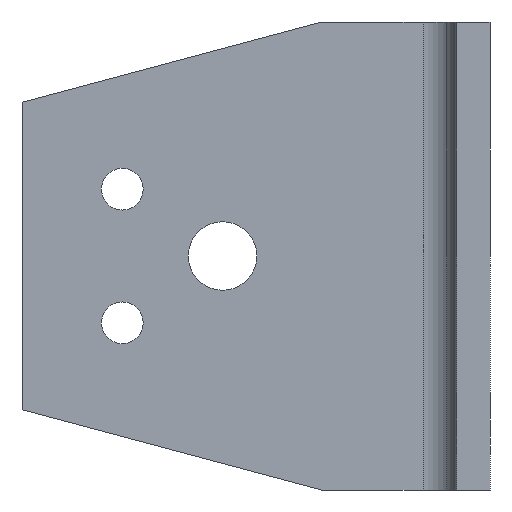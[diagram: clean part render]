
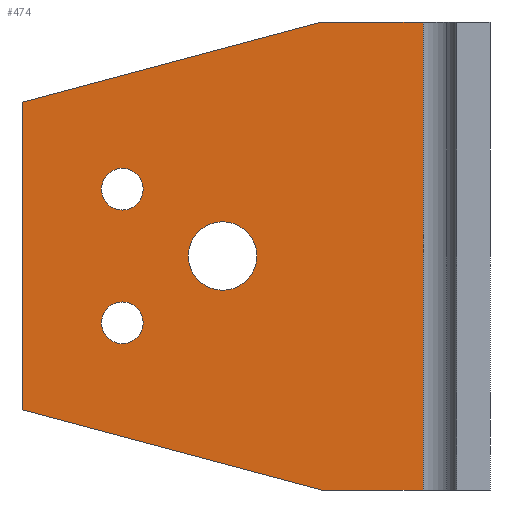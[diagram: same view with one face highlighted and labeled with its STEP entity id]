
A CAD part, left-side view. The second image highlights one B-rep face of the part: STEP entity #474.
In plain terms, the highlighted planar face has unit normal (-1, 0, 0).
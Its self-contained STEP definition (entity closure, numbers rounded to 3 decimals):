
#133=CARTESIAN_POINT('',(32.0,50.,80.25));
#134=VERTEX_POINT('',#133);
#143=CARTESIAN_POINT('',(32.0,50.,59.75));
#144=VERTEX_POINT('',#143);
#145=CARTESIAN_POINT('',(32.0,50.,70.0));
#146=DIRECTION('',(1.0,0.0,0.0));
#147=DIRECTION('',(0.0,0.0,1.0));
#148=AXIS2_PLACEMENT_3D('',#145,#146,#147);
#149=CIRCLE('',#148,10.25);
#150=EDGE_CURVE('',#144,#134,#149,.T.);
#175=CARTESIAN_POINT('',(32.0,80.0,96.25));
#176=VERTEX_POINT('',#175);
#185=CARTESIAN_POINT('',(32.0,80.0,83.75));
#186=VERTEX_POINT('',#185);
#187=CARTESIAN_POINT('',(32.0,80.0,90.0));
#188=DIRECTION('',(1.0,0.0,0.0));
#189=DIRECTION('',(0.0,0.0,1.0));
#190=AXIS2_PLACEMENT_3D('',#187,#188,#189);
#191=CIRCLE('',#190,6.25);
#192=EDGE_CURVE('',#186,#176,#191,.T.);
#217=CARTESIAN_POINT('',(32.0,80.,56.25));
#218=VERTEX_POINT('',#217);
#227=CARTESIAN_POINT('',(32.0,80.,43.75));
#228=VERTEX_POINT('',#227);
#229=CARTESIAN_POINT('',(32.0,80.,50.0));
#230=DIRECTION('',(1.0,0.0,0.0));
#231=DIRECTION('',(0.0,0.0,1.0));
#232=AXIS2_PLACEMENT_3D('',#229,#230,#231);
#233=CIRCLE('',#232,6.25);
#234=EDGE_CURVE('',#228,#218,#233,.T.);
#259=CARTESIAN_POINT('',(32.,110.,24.));
#260=VERTEX_POINT('',#259);
#261=CARTESIAN_POINT('',(32.,20.431,0.0));
#262=VERTEX_POINT('',#261);
#263=CARTESIAN_POINT('',(32.,110.,24.));
#264=DIRECTION('',(0.,-0.966,-0.259));
#265=VECTOR('',#264,92.729);
#266=LINE('',#263,#265);
#267=EDGE_CURVE('',#260,#262,#266,.T.);
#299=CARTESIAN_POINT('',(32.,20.431,140.0));
#300=VERTEX_POINT('',#299);
#301=CARTESIAN_POINT('',(32.,110.,116.0));
#302=VERTEX_POINT('',#301);
#303=CARTESIAN_POINT('',(32.,20.431,140.0));
#304=DIRECTION('',(0.,0.966,-0.259));
#305=VECTOR('',#304,92.729);
#306=LINE('',#303,#305);
#307=EDGE_CURVE('',#300,#302,#306,.T.);
#340=CARTESIAN_POINT('',(32.,110.,24.));
#341=DIRECTION('',(0.0,0.0,1.0));
#342=VECTOR('',#341,92.0);
#343=LINE('',#340,#342);
#344=EDGE_CURVE('',#260,#302,#343,.T.);
#362=CARTESIAN_POINT('',(32.0,-10.0,140.0));
#363=VERTEX_POINT('',#362);
#364=CARTESIAN_POINT('',(32.0,-10.0,140.0));
#365=DIRECTION('',(0.0,1.0,0.0));
#366=VECTOR('',#365,30.431);
#367=LINE('',#364,#366);
#368=EDGE_CURVE('',#363,#300,#367,.T.);
#419=CARTESIAN_POINT('',(32.0,-20.0,0.0));
#420=DIRECTION('',(-1.0,0.0,0.0));
#421=DIRECTION('',(0.0,0.0,1.0));
#422=AXIS2_PLACEMENT_3D('',#419,#420,#421);
#423=PLANE('',#422);
#424=ORIENTED_EDGE('',*,*,#267,.T.);
#425=CARTESIAN_POINT('',(32.0,-10.0,0.0));
#426=VERTEX_POINT('',#425);
#427=CARTESIAN_POINT('',(32.,20.431,0.0));
#428=DIRECTION('',(0.0,-1.0,0.0));
#429=VECTOR('',#428,30.431);
#430=LINE('',#427,#429);
#431=EDGE_CURVE('',#262,#426,#430,.T.);
#432=ORIENTED_EDGE('',*,*,#431,.T.);
#433=CARTESIAN_POINT('',(32.0,-10.0,140.0));
#434=DIRECTION('',(0.0,0.0,-1.0));
#435=VECTOR('',#434,140.0);
#436=LINE('',#433,#435);
#437=EDGE_CURVE('',#363,#426,#436,.T.);
#438=ORIENTED_EDGE('',*,*,#437,.F.);
#439=ORIENTED_EDGE('',*,*,#368,.T.);
#440=ORIENTED_EDGE('',*,*,#307,.T.);
#441=ORIENTED_EDGE('',*,*,#344,.F.);
#442=EDGE_LOOP('',(#424,#432,#438,#439,#440,#441));
#443=FACE_OUTER_BOUND('',#442,.T.);
#444=ORIENTED_EDGE('',*,*,#150,.T.);
#445=CARTESIAN_POINT('',(32.0,50.,70.0));
#446=DIRECTION('',(1.0,0.0,0.0));
#447=DIRECTION('',(0.0,0.0,1.0));
#448=AXIS2_PLACEMENT_3D('',#445,#446,#447);
#449=CIRCLE('',#448,10.25);
#450=EDGE_CURVE('',#134,#144,#449,.T.);
#451=ORIENTED_EDGE('',*,*,#450,.T.);
#452=EDGE_LOOP('',(#444,#451));
#453=FACE_BOUND('',#452,.T.);
#454=ORIENTED_EDGE('',*,*,#192,.T.);
#455=CARTESIAN_POINT('',(32.0,80.0,90.0));
#456=DIRECTION('',(1.0,0.0,0.0));
#457=DIRECTION('',(0.0,0.0,1.0));
#458=AXIS2_PLACEMENT_3D('',#455,#456,#457);
#459=CIRCLE('',#458,6.25);
#460=EDGE_CURVE('',#176,#186,#459,.T.);
#461=ORIENTED_EDGE('',*,*,#460,.T.);
#462=EDGE_LOOP('',(#454,#461));
#463=FACE_BOUND('',#462,.T.);
#464=ORIENTED_EDGE('',*,*,#234,.T.);
#465=CARTESIAN_POINT('',(32.0,80.,50.0));
#466=DIRECTION('',(1.0,0.0,0.0));
#467=DIRECTION('',(0.0,0.0,1.0));
#468=AXIS2_PLACEMENT_3D('',#465,#466,#467);
#469=CIRCLE('',#468,6.25);
#470=EDGE_CURVE('',#218,#228,#469,.T.);
#471=ORIENTED_EDGE('',*,*,#470,.T.);
#472=EDGE_LOOP('',(#464,#471));
#473=FACE_BOUND('',#472,.T.);
#474=ADVANCED_FACE('',(#443,#453,#463,#473),#423,.T.);
